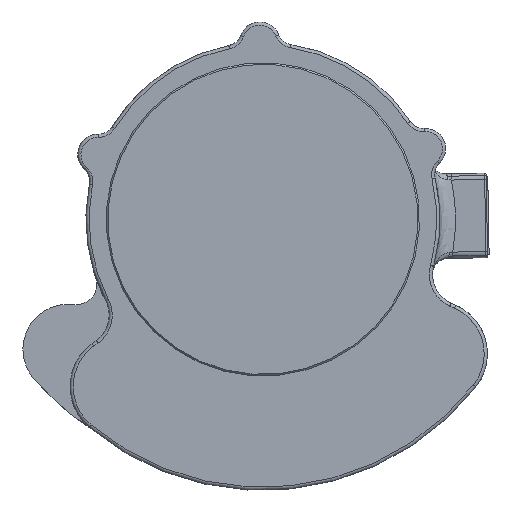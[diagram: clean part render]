
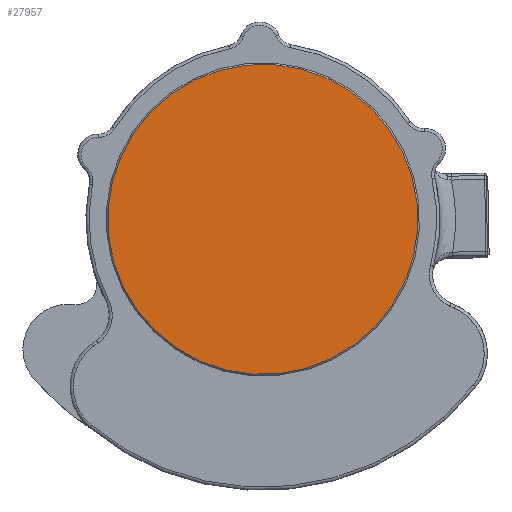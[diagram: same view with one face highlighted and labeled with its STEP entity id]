
A CAD part, left-side view. The second image highlights one B-rep face of the part: STEP entity #27957.
In plain terms, the highlighted planar face has unit normal (-1, 0, 0).
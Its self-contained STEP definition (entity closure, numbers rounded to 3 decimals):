
#27917=CARTESIAN_POINT('',(-111.319,47.582,-13.644));
#27918=VERTEX_POINT('',#27917);
#27919=CARTESIAN_POINT('',(-111.319,0.,0.));
#27920=DIRECTION('',(1.0,0.,0.));
#27921=DIRECTION('',(0.,-0.961,0.276));
#27922=AXIS2_PLACEMENT_3D('',#27919,#27920,#27921);
#27923=CIRCLE('',#27922,49.5);
#27924=EDGE_CURVE('',#27918,#27918,#27923,.T.);
#27949=CARTESIAN_POINT('',(-111.319,46.717,-13.396));
#27950=DIRECTION('',(-1.0,0.0,0.0));
#27951=DIRECTION('',(0.0,0.961,-0.276));
#27952=AXIS2_PLACEMENT_3D('',#27949,#27950,#27951);
#27953=PLANE('',#27952);
#27954=ORIENTED_EDGE('',*,*,#27924,.F.);
#27955=EDGE_LOOP('',(#27954));
#27956=FACE_OUTER_BOUND('',#27955,.T.);
#27957=ADVANCED_FACE('',(#27956),#27953,.T.);
